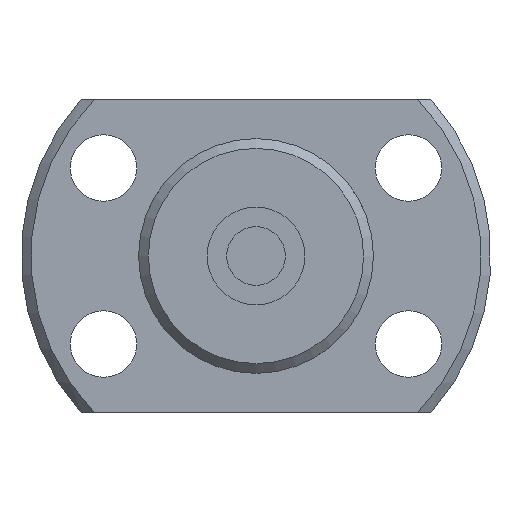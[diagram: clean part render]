
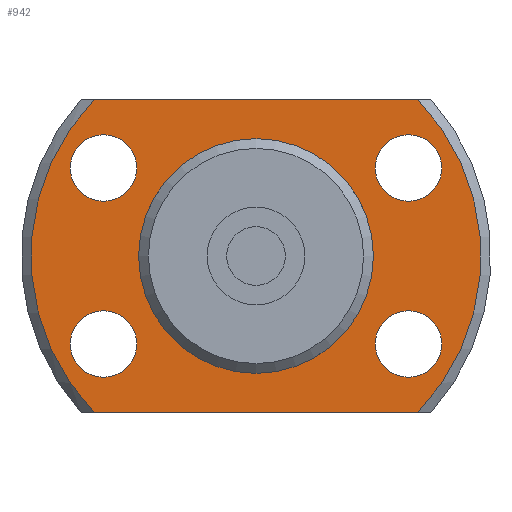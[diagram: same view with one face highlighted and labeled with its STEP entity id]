
A CAD part, left-side view. The second image highlights one B-rep face of the part: STEP entity #942.
In plain terms, the highlighted planar face has unit normal (-1, 0, 0).
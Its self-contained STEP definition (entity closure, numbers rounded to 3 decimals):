
#102=LINE('',#1652,#140);
#103=LINE('',#1656,#141);
#140=VECTOR('',#1319,1000.);
#141=VECTOR('',#1322,1000.);
#269=ORIENTED_EDGE('',*,*,#465,.T.);
#270=ORIENTED_EDGE('',*,*,#466,.T.);
#271=ORIENTED_EDGE('',*,*,#467,.T.);
#272=ORIENTED_EDGE('',*,*,#468,.T.);
#273=ORIENTED_EDGE('',*,*,#454,.F.);
#274=ORIENTED_EDGE('',*,*,#469,.F.);
#275=ORIENTED_EDGE('',*,*,#470,.F.);
#276=ORIENTED_EDGE('',*,*,#471,.F.);
#277=ORIENTED_EDGE('',*,*,#448,.T.);
#448=EDGE_CURVE('',#557,#557,#630,.T.);
#454=EDGE_CURVE('',#562,#563,#633,.T.);
#465=EDGE_CURVE('',#572,#572,#639,.T.);
#466=EDGE_CURVE('',#573,#573,#640,.T.);
#467=EDGE_CURVE('',#574,#574,#641,.T.);
#468=EDGE_CURVE('',#575,#575,#642,.T.);
#469=EDGE_CURVE('',#576,#562,#102,.T.);
#470=EDGE_CURVE('',#577,#576,#643,.T.);
#471=EDGE_CURVE('',#563,#577,#103,.T.);
#557=VERTEX_POINT('',#1595);
#562=VERTEX_POINT('',#1609);
#563=VERTEX_POINT('',#1611);
#572=VERTEX_POINT('',#1645);
#573=VERTEX_POINT('',#1647);
#574=VERTEX_POINT('',#1649);
#575=VERTEX_POINT('',#1651);
#576=VERTEX_POINT('',#1653);
#577=VERTEX_POINT('',#1655);
#630=CIRCLE('',#1063,5.75);
#633=CIRCLE('',#1067,11.5);
#639=CIRCLE('',#1078,1.7);
#640=CIRCLE('',#1079,1.7);
#641=CIRCLE('',#1080,1.7);
#642=CIRCLE('',#1081,1.7);
#643=CIRCLE('',#1082,11.5);
#716=EDGE_LOOP('',(#269));
#717=EDGE_LOOP('',(#270));
#718=EDGE_LOOP('',(#271));
#719=EDGE_LOOP('',(#272));
#720=EDGE_LOOP('',(#273,#274,#275,#276));
#721=EDGE_LOOP('',(#277));
#824=FACE_BOUND('',#716,.T.);
#825=FACE_BOUND('',#717,.T.);
#826=FACE_BOUND('',#718,.T.);
#827=FACE_BOUND('',#719,.T.);
#828=FACE_BOUND('',#720,.T.);
#829=FACE_BOUND('',#721,.T.);
#890=PLANE('',#1077);
#942=ADVANCED_FACE('',(#824,#825,#826,#827,#828,#829),#890,.F.);
#1063=AXIS2_PLACEMENT_3D('',#1594,#1277,#1278);
#1067=AXIS2_PLACEMENT_3D('',#1610,#1287,#1288);
#1077=AXIS2_PLACEMENT_3D('',#1643,#1309,#1310);
#1078=AXIS2_PLACEMENT_3D('',#1644,#1311,#1312);
#1079=AXIS2_PLACEMENT_3D('',#1646,#1313,#1314);
#1080=AXIS2_PLACEMENT_3D('',#1648,#1315,#1316);
#1081=AXIS2_PLACEMENT_3D('',#1650,#1317,#1318);
#1082=AXIS2_PLACEMENT_3D('',#1654,#1320,#1321);
#1277=DIRECTION('',(1.,0.,0.));
#1278=DIRECTION('',(0.,0.,-1.));
#1287=DIRECTION('',(1.,0.,0.));
#1288=DIRECTION('',(0.,0.,-1.));
#1309=DIRECTION('',(1.,0.,0.));
#1310=DIRECTION('',(0.,0.,-1.));
#1311=DIRECTION('',(1.,0.,0.));
#1312=DIRECTION('',(0.,0.,-1.));
#1313=DIRECTION('',(1.,0.,0.));
#1314=DIRECTION('',(0.,0.,-1.));
#1315=DIRECTION('',(1.,0.,0.));
#1316=DIRECTION('',(0.,0.,-1.));
#1317=DIRECTION('',(1.,0.,0.));
#1318=DIRECTION('',(0.,0.,-1.));
#1319=DIRECTION('',(0.,1.,0.));
#1320=DIRECTION('',(1.,0.,0.));
#1321=DIRECTION('',(0.,0.,-1.));
#1322=DIRECTION('',(0.,-1.,0.));
#1594=CARTESIAN_POINT('',(18.,0.,0.));
#1595=CARTESIAN_POINT('',(18.,0.,-5.75));
#1609=CARTESIAN_POINT('',(18.,8.261,-8.));
#1610=CARTESIAN_POINT('',(18.,0.,0.));
#1611=CARTESIAN_POINT('',(18.,8.261,8.));
#1643=CARTESIAN_POINT('',(18.,5.75,0.));
#1644=CARTESIAN_POINT('',(18.,-7.794,-4.5));
#1645=CARTESIAN_POINT('',(18.,-7.794,-6.2));
#1646=CARTESIAN_POINT('',(18.,-7.794,4.5));
#1647=CARTESIAN_POINT('',(18.,-7.794,2.8));
#1648=CARTESIAN_POINT('',(18.,7.794,-4.5));
#1649=CARTESIAN_POINT('',(18.,7.794,-6.2));
#1650=CARTESIAN_POINT('',(18.,7.794,4.5));
#1651=CARTESIAN_POINT('',(18.,7.794,2.8));
#1652=CARTESIAN_POINT('',(18.,-17.,-8.));
#1653=CARTESIAN_POINT('',(18.,-8.261,-8.));
#1654=CARTESIAN_POINT('',(18.,0.,0.));
#1655=CARTESIAN_POINT('',(18.,-8.261,8.));
#1656=CARTESIAN_POINT('',(18.,17.,8.));
